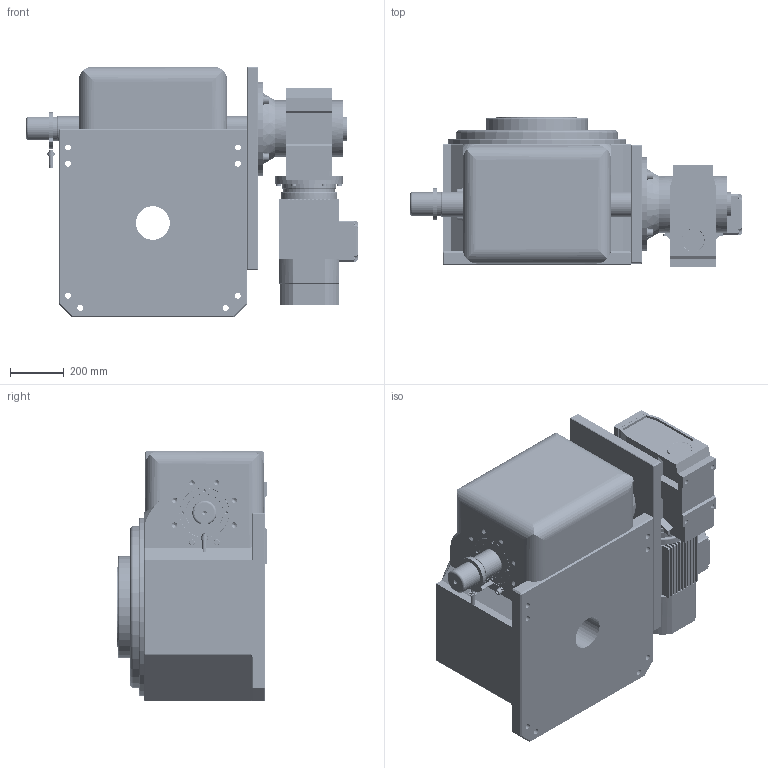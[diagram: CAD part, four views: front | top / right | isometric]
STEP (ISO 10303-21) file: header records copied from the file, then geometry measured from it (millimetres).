
FILE_DESCRIPTION (( 'STEP AP214' ), '1' );
FILE_NAME ('- 350DT 阨す眻脣宒衵耜DF.STEP', '2017-09-25T02:50:03', ( '' ), ( '' ), 'SwSTEP 2.0', 'SolidWorks 2017', '' );
FILE_SCHEMA (( 'AUTOMOTIVE_DESIGN' ));
Length unit declared in the file: millimetre
Products named in the file (1): - 350DT 阨す眻脣宒衵耜DF
Bounding box: 1230 x 558 x 930 mm (x, y, z)
Volume: 322111212.3 mm3; surface area: 5816543.5 mm2
Topology: 3 solids, 5 shells, 3216 faces, 8732 edges, 5570 vertices
Faces by surface type: cylinder 1936, plane 808, cone 313, bspline 114, torus 45
Entity records: 225438 total; most frequent: CARTESIAN_POINT 153731, ORIENTED_EDGE 17268, DIRECTION 12316, EDGE_CURVE 8634, VERTEX_POINT 5570, AXIS2_PLACEMENT_3D 4242, LINE 3832, VECTOR 3832
